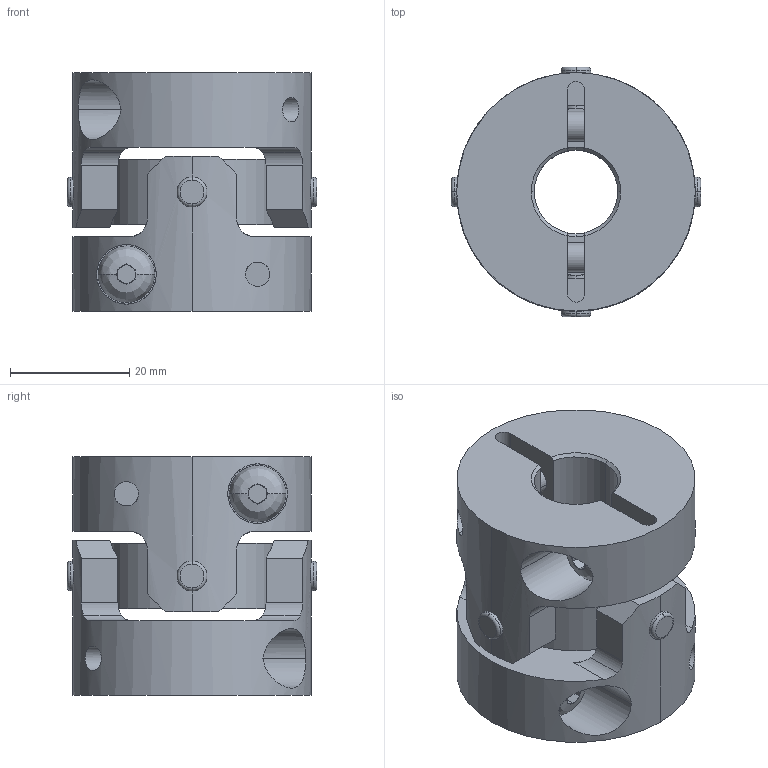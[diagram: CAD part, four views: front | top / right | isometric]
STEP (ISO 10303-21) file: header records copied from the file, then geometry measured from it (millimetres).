
FILE_DESCRIPTION((''),'2;1');
FILE_NAME('UA-40C-14×14.stp','2013-05-22T09:29:29',(''),(''),'AutoCAD STEP 2000i','AutoCAD 2000i',', , ');
FILE_SCHEMA(('CONFIG_CONTROL_DESIGN'));
Length unit declared in the file: millimetre
Products named in the file (6): UA-40C-8×8; 忣兜1; UA-4002-D08-1; BTN-M5; UA-4002-D08; UA40-SEN
Assembly tree (6 placements, depth 3):
  UA-40C-8×8
    忣兜1
    UA-4002-D08-1
      BTN-M5
    UA-4002-D08
      BTN-M5
    UA40-SEN
Bounding box: 41.81 x 41.81 x 40 mm (x, y, z)
Volume: 33073.7 mm3; surface area: 15493.9 mm2
Topology: 1 solids, 1 shells, 250 faces, 646 edges, 408 vertices
Faces by surface type: plane 122, cylinder 96, cone 16, bspline 8, torus 8
Entity records: 9627 total; most frequent: CARTESIAN_POINT 3371, ORIENTED_EDGE 1292, DIRECTION 1288, EDGE_CURVE 646, AXIS2_PLACEMENT_3D 497, VERTEX_POINT 408, VECTOR 294, LINE 294
